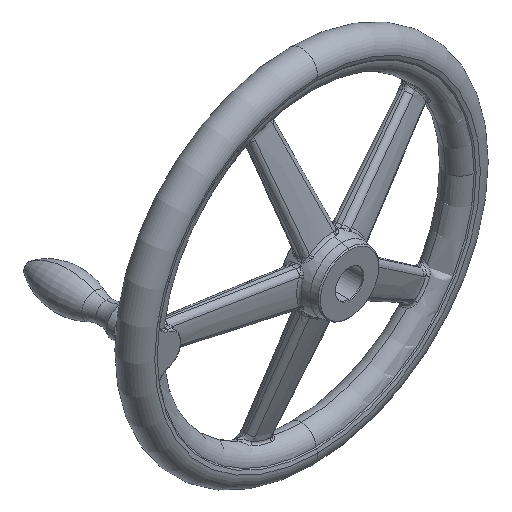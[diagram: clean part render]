
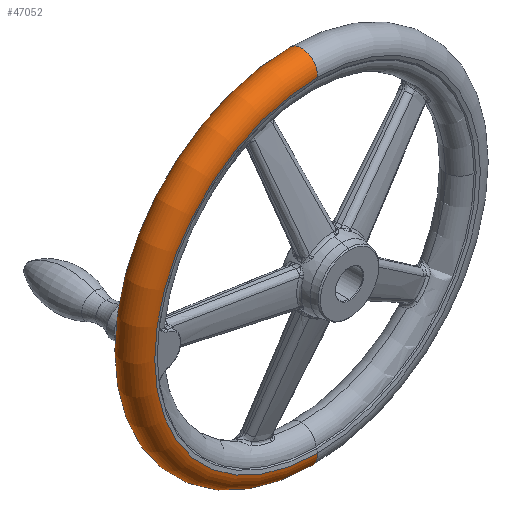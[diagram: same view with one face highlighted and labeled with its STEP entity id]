
A CAD part, isometric view. The second image highlights one B-rep face of the part: STEP entity #47052.
In plain terms, the highlighted toroidal (fillet/blend) face has major radius 143.462 mm and minor radius 14.039 mm.
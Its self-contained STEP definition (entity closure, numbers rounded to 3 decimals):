
#1642 = EDGE_CURVE ( 'NONE', #1922, #1908, #38359, .T. ) ;
#1908 = VERTEX_POINT ( 'NONE', #38867 ) ;
#1922 = VERTEX_POINT ( 'NONE', #38911 ) ;
#2548 = VERTEX_POINT ( 'NONE', #39962 ) ;
#2549 = VERTEX_POINT ( 'NONE', #39937 ) ;
#2626 = EDGE_CURVE ( 'NONE', #2548, #2549, #40284, .T. ) ;
#10813 = CARTESIAN_POINT ( 'NONE',  ( 0., 42., 143.462 ) ) ;
#10821 = CIRCLE ( 'NONE', #10851, 14.038 ) ;
#10844 = DIRECTION ( 'NONE',  ( 0., 0., -1. ) ) ;
#10845 = DIRECTION ( 'NONE',  ( 1., 0., 0. ) ) ;
#10851 = AXIS2_PLACEMENT_3D ( 'NONE', #10813, #10845, #10844 ) ;
#12269 = DIRECTION ( 'NONE',  ( 0., 0., 1. ) ) ;
#12270 = DIRECTION ( 'NONE',  ( -1., 0., 0. ) ) ;
#12271 = AXIS2_PLACEMENT_3D ( 'NONE', #12276, #12270, #12269 ) ;
#12272 = CIRCLE ( 'NONE', #12271, 14.038 ) ;
#12276 = CARTESIAN_POINT ( 'NONE',  ( 0., 42., -143.462 ) ) ;
#12585 = DIRECTION ( 'NONE',  ( 0., -1., 0. ) ) ;
#12596 = FACE_OUTER_BOUND ( 'NONE', #47006, .T. ) ;
#12600 = CARTESIAN_POINT ( 'NONE',  ( 0., 42., 0. ) ) ;
#12611 = TOROIDAL_SURFACE ( 'NONE', #12638, 143.462, 14.038 ) ;
#12630 = DIRECTION ( 'NONE',  ( 0., 0., -1. ) ) ;
#12638 = AXIS2_PLACEMENT_3D ( 'NONE', #12600, #12585, #12630 ) ;
#38359 = CIRCLE ( 'NONE', #38367, 142.423 ) ;
#38367 = AXIS2_PLACEMENT_3D ( 'NONE', #38462, #38409, #38408 ) ;
#38408 = DIRECTION ( 'NONE',  ( 0., 0., -1. ) ) ;
#38409 = DIRECTION ( 'NONE',  ( 0., -1., 0. ) ) ;
#38462 = CARTESIAN_POINT ( 'NONE',  ( 0., 28., 0. ) ) ;
#38867 = CARTESIAN_POINT ( 'NONE',  ( 0., 28., -142.423 ) ) ;
#38911 = CARTESIAN_POINT ( 'NONE',  ( 0., 28., 142.423 ) ) ;
#39937 = CARTESIAN_POINT ( 'NONE',  ( 0., 56., -142.423 ) ) ;
#39962 = CARTESIAN_POINT ( 'NONE',  ( 0., 56., 142.423 ) ) ;
#40259 = DIRECTION ( 'NONE',  ( 0., 0., -1. ) ) ;
#40261 = AXIS2_PLACEMENT_3D ( 'NONE', #40271, #40277, #40259 ) ;
#40271 = CARTESIAN_POINT ( 'NONE',  ( 0., 56., 0. ) ) ;
#40277 = DIRECTION ( 'NONE',  ( 0., -1., 0. ) ) ;
#40284 = CIRCLE ( 'NONE', #40261, 142.423 ) ;
#44188 = EDGE_CURVE ( 'NONE', #2548, #1922, #10821, .T. ) ;
#46058 = EDGE_CURVE ( 'NONE', #2549, #1908, #12272, .T. ) ;
#46063 = ORIENTED_EDGE ( 'NONE', *, *, #2626, .T. ) ;
#46650 = ORIENTED_EDGE ( 'NONE', *, *, #44188, .F. ) ;
#46973 = ORIENTED_EDGE ( 'NONE', *, *, #46058, .T. ) ;
#46983 = ORIENTED_EDGE ( 'NONE', *, *, #1642, .F. ) ;
#47006 = EDGE_LOOP ( 'NONE', ( #46650, #46063, #46973, #46983 ) ) ;
#47052 = ADVANCED_FACE ( 'NONE', ( #12596 ), #12611, .T. ) ;
